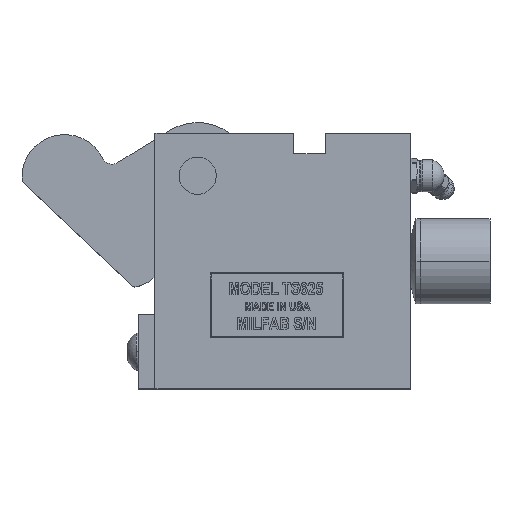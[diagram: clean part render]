
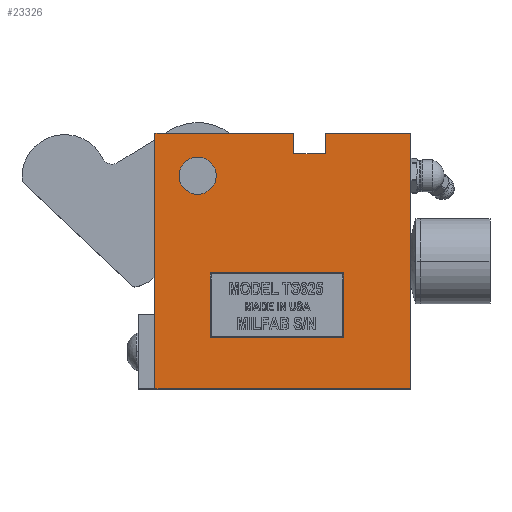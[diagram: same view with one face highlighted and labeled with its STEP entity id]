
A CAD part, top view. The second image highlights one B-rep face of the part: STEP entity #23326.
In plain terms, the highlighted planar face has unit normal (0, 0, 1).
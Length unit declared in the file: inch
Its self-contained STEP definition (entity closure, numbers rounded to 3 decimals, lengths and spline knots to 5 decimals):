
#2119 = DIRECTION ( 'NONE',  ( 0., -1., 0. ) ) ;
#2120 = VECTOR ( 'NONE', #2119, 39.37008 ) ;
#2121 = CARTESIAN_POINT ( 'NONE',  ( 5.66064, 2.77171, 0. ) ) ;
#2122 = LINE ( 'NONE', #2121, #2120 ) ;
#2127 = DIRECTION ( 'NONE',  ( 0., -1., 0. ) ) ;
#2128 = VECTOR ( 'NONE', #2127, 39.37008 ) ;
#2129 = CARTESIAN_POINT ( 'NONE',  ( 7.66064, 5.53171, 0. ) ) ;
#2130 = LINE ( 'NONE', #2129, #2128 ) ;
#2274 = CARTESIAN_POINT ( 'NONE',  ( 7.66064, 5.53171, 0. ) ) ;
#2275 = DIRECTION ( 'NONE',  ( -1., 0., 0. ) ) ;
#2276 = VECTOR ( 'NONE', #2275, 39.37008 ) ;
#2277 = CARTESIAN_POINT ( 'NONE',  ( 7.28564, 5.53171, 0. ) ) ;
#2278 = LINE ( 'NONE', #2277, #2276 ) ;
#2396 = DIRECTION ( 'NONE',  ( 1., 0., 0. ) ) ;
#2397 = VECTOR ( 'NONE', #2396, 39.37008 ) ;
#2398 = CARTESIAN_POINT ( 'NONE',  ( 5.66064, 2.77171, 0. ) ) ;
#2399 = LINE ( 'NONE', #2398, #2397 ) ;
#2400 = CARTESIAN_POINT ( 'NONE',  ( 5.66064, 2.77171, 0. ) ) ;
#2433 = CARTESIAN_POINT ( 'NONE',  ( 8.66064, 2.77171, 0. ) ) ;
#2434 = DIRECTION ( 'NONE',  ( 0., 1., 0. ) ) ;
#2435 = VECTOR ( 'NONE', #2434, 39.37008 ) ;
#2436 = CARTESIAN_POINT ( 'NONE',  ( 8.66064, 2.77171, 0. ) ) ;
#2437 = LINE ( 'NONE', #2436, #2435 ) ;
#2557 = CARTESIAN_POINT ( 'NONE',  ( 7.28564, 5.53171, 0. ) ) ;
#2558 = DIRECTION ( 'NONE',  ( 0., 1., 0. ) ) ;
#2745 = VECTOR ( 'NONE', #2558, 39.37008 ) ;
#2746 = CARTESIAN_POINT ( 'NONE',  ( 7.28564, 5.77171, 0. ) ) ;
#2750 = LINE ( 'NONE', #2746, #2745 ) ;
#2795 = PLANE ( 'NONE',  #2798 ) ;
#2796 = LINE ( 'NONE', #2935, #2934 ) ;
#2797 = CARTESIAN_POINT ( 'NONE',  ( 8.66064, 5.77171, 0. ) ) ;
#2798 = AXIS2_PLACEMENT_3D ( 'NONE', #2797, #2937, #2936 ) ;
#2799 = FACE_OUTER_BOUND ( 'NONE', #23274, .T. ) ;
#2800 = FACE_BOUND ( 'NONE', #23271, .T. ) ;
#2801 = FACE_BOUND ( 'NONE', #23311, .T. ) ;
#2876 = CARTESIAN_POINT ( 'NONE',  ( 6.31064, 4.13171, 0. ) ) ;
#2927 = CARTESIAN_POINT ( 'NONE',  ( 7.87064, 4.13171, 0. ) ) ;
#2928 = CARTESIAN_POINT ( 'NONE',  ( 6.31064, 3.37171, 0. ) ) ;
#2929 = DIRECTION ( 'NONE',  ( 0., -1., 0. ) ) ;
#2930 = VECTOR ( 'NONE', #2929, 39.37008 ) ;
#2931 = CARTESIAN_POINT ( 'NONE',  ( 6.31064, 3.37171, 0. ) ) ;
#2932 = LINE ( 'NONE', #2931, #2930 ) ;
#2933 = DIRECTION ( 'NONE',  ( -1., 0., 0. ) ) ;
#2934 = VECTOR ( 'NONE', #2933, 39.37008 ) ;
#2935 = CARTESIAN_POINT ( 'NONE',  ( 6.31064, 4.13171, 0. ) ) ;
#2936 = DIRECTION ( 'NONE',  ( 1., 0., 0. ) ) ;
#2937 = DIRECTION ( 'NONE',  ( 0., 0., 1. ) ) ;
#2952 = VECTOR ( 'NONE', #2998, 39.37008 ) ;
#2953 = CARTESIAN_POINT ( 'NONE',  ( 7.87064, 3.37171, 0. ) ) ;
#2954 = LINE ( 'NONE', #2953, #2952 ) ;
#2963 = DIRECTION ( 'NONE',  ( 1., 0., 0. ) ) ;
#2964 = DIRECTION ( 'NONE',  ( 0., 0., 1. ) ) ;
#2997 = CARTESIAN_POINT ( 'NONE',  ( 7.87064, 3.37171, 0. ) ) ;
#2998 = DIRECTION ( 'NONE',  ( 0., 1., 0. ) ) ;
#3016 = CARTESIAN_POINT ( 'NONE',  ( 6.16064, 5.27171, 0. ) ) ;
#3017 = AXIS2_PLACEMENT_3D ( 'NONE', #3016, #2964, #2963 ) ;
#3018 = CIRCLE ( 'NONE', #3017, 0.218 ) ;
#3019 = DIRECTION ( 'NONE',  ( 1., 0., 0. ) ) ;
#3020 = VECTOR ( 'NONE', #3019, 39.37008 ) ;
#3021 = CARTESIAN_POINT ( 'NONE',  ( 6.31064, 3.37171, 0. ) ) ;
#3022 = LINE ( 'NONE', #3021, #3020 ) ;
#11430 = CARTESIAN_POINT ( 'NONE',  ( 8.66064, 5.77171, 0. ) ) ;
#11510 = CARTESIAN_POINT ( 'NONE',  ( 7.66064, 5.77171, 0. ) ) ;
#11580 = DIRECTION ( 'NONE',  ( -1., 0., 0. ) ) ;
#11581 = VECTOR ( 'NONE', #11580, 39.37008 ) ;
#11582 = CARTESIAN_POINT ( 'NONE',  ( 7.66064, 5.77171, 0. ) ) ;
#11583 = LINE ( 'NONE', #11582, #11581 ) ;
#14837 = CARTESIAN_POINT ( 'NONE',  ( 5.66064, 5.77171, 0. ) ) ;
#14981 = CARTESIAN_POINT ( 'NONE',  ( 6.16064, 5.27171, 0. ) ) ;
#14982 = AXIS2_PLACEMENT_3D ( 'NONE', #14981, #15102, #15101 ) ;
#14983 = CIRCLE ( 'NONE', #14982, 0.218 ) ;
#14996 = CARTESIAN_POINT ( 'NONE',  ( 5.94264, 5.27171, 0. ) ) ;
#15100 = CARTESIAN_POINT ( 'NONE',  ( 6.37864, 5.27171, 0. ) ) ;
#15101 = DIRECTION ( 'NONE',  ( 1., 0., 0. ) ) ;
#15102 = DIRECTION ( 'NONE',  ( 0., 0., 1. ) ) ;
#15163 = DIRECTION ( 'NONE',  ( -1., 0., 0. ) ) ;
#15164 = VECTOR ( 'NONE', #15163, 39.37008 ) ;
#15165 = CARTESIAN_POINT ( 'NONE',  ( 5.66064, 5.77171, 0. ) ) ;
#15195 = LINE ( 'NONE', #15165, #15164 ) ;
#15256 = CARTESIAN_POINT ( 'NONE',  ( 7.28564, 5.77171, 0. ) ) ;
#18118 = VERTEX_POINT ( 'NONE', #11510 ) ;
#18125 = EDGE_CURVE ( 'NONE', #18128, #18118, #11583, .T. ) ;
#18128 = VERTEX_POINT ( 'NONE', #11430 ) ;
#20350 = VERTEX_POINT ( 'NONE', #14837 ) ;
#20409 = EDGE_CURVE ( 'NONE', #20429, #20410, #14983, .T. ) ;
#20410 = VERTEX_POINT ( 'NONE', #15100 ) ;
#20429 = VERTEX_POINT ( 'NONE', #14996 ) ;
#20465 = EDGE_CURVE ( 'NONE', #20466, #20350, #15195, .T. ) ;
#20466 = VERTEX_POINT ( 'NONE', #15256 ) ;
#22978 = EDGE_CURVE ( 'NONE', #22979, #23173, #2278, .T. ) ;
#22979 = VERTEX_POINT ( 'NONE', #2274 ) ;
#22990 = EDGE_CURVE ( 'NONE', #18118, #22979, #2130, .T. ) ;
#22994 = EDGE_CURVE ( 'NONE', #20350, #23058, #2122, .T. ) ;
#23058 = VERTEX_POINT ( 'NONE', #2400 ) ;
#23059 = EDGE_CURVE ( 'NONE', #23058, #23079, #2399, .T. ) ;
#23078 = EDGE_CURVE ( 'NONE', #23079, #18128, #2437, .T. ) ;
#23079 = VERTEX_POINT ( 'NONE', #2433 ) ;
#23172 = EDGE_CURVE ( 'NONE', #23173, #20466, #2750, .T. ) ;
#23173 = VERTEX_POINT ( 'NONE', #2557 ) ;
#23267 = ORIENTED_EDGE ( 'NONE', *, *, #20465, .T. ) ;
#23268 = ORIENTED_EDGE ( 'NONE', *, *, #22994, .T. ) ;
#23269 = ORIENTED_EDGE ( 'NONE', *, *, #23270, .F. ) ;
#23270 = EDGE_CURVE ( 'NONE', #23329, #23288, #3022, .T. ) ;
#23271 = EDGE_LOOP ( 'NONE', ( #23272, #23340 ) ) ;
#23272 = ORIENTED_EDGE ( 'NONE', *, *, #23273, .F. ) ;
#23273 = EDGE_CURVE ( 'NONE', #20410, #20429, #3018, .T. ) ;
#23274 = EDGE_LOOP ( 'NONE', ( #23341, #23342, #23343, #23344, #23267, #23268, #23297, #23298 ) ) ;
#23286 = ORIENTED_EDGE ( 'NONE', *, *, #23287, .F. ) ;
#23287 = EDGE_CURVE ( 'NONE', #23288, #23335, #2954, .T. ) ;
#23288 = VERTEX_POINT ( 'NONE', #2997 ) ;
#23297 = ORIENTED_EDGE ( 'NONE', *, *, #23059, .T. ) ;
#23298 = ORIENTED_EDGE ( 'NONE', *, *, #23078, .T. ) ;
#23311 = EDGE_LOOP ( 'NONE', ( #23312, #23334, #23286, #23269 ) ) ;
#23312 = ORIENTED_EDGE ( 'NONE', *, *, #23328, .F. ) ;
#23313 = VERTEX_POINT ( 'NONE', #2876 ) ;
#23326 = ADVANCED_FACE ( 'NONE', ( #2801, #2800, #2799 ), #2795, .T. ) ;
#23327 = EDGE_CURVE ( 'NONE', #23335, #23313, #2796, .T. ) ;
#23328 = EDGE_CURVE ( 'NONE', #23313, #23329, #2932, .T. ) ;
#23329 = VERTEX_POINT ( 'NONE', #2928 ) ;
#23334 = ORIENTED_EDGE ( 'NONE', *, *, #23327, .F. ) ;
#23335 = VERTEX_POINT ( 'NONE', #2927 ) ;
#23340 = ORIENTED_EDGE ( 'NONE', *, *, #20409, .F. ) ;
#23341 = ORIENTED_EDGE ( 'NONE', *, *, #18125, .T. ) ;
#23342 = ORIENTED_EDGE ( 'NONE', *, *, #22990, .T. ) ;
#23343 = ORIENTED_EDGE ( 'NONE', *, *, #22978, .T. ) ;
#23344 = ORIENTED_EDGE ( 'NONE', *, *, #23172, .T. ) ;
